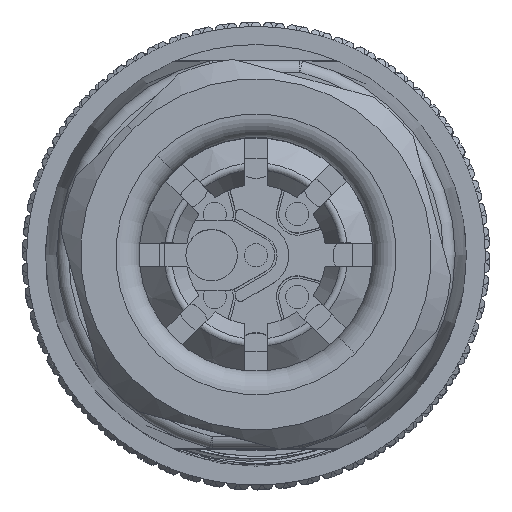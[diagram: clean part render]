
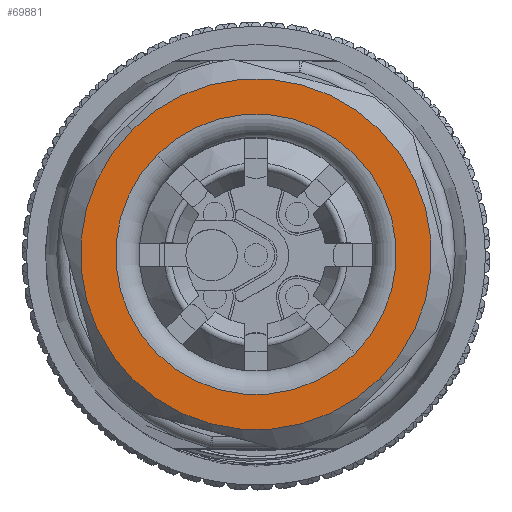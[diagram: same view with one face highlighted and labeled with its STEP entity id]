
A CAD part, top view. The second image highlights one B-rep face of the part: STEP entity #69881.
In plain terms, the highlighted planar face has unit normal (0, 0, 1).
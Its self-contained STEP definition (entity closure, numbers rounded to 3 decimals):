
#31364=CARTESIAN_POINT('',(0.,0.,
39.975));
#31365=DIRECTION('',(0.,0.,-1.));
#31366=DIRECTION('',(0.707,-0.707,0.));
#31367=AXIS2_PLACEMENT_3D('',#31364,#31365,#31366);
#31369=CARTESIAN_POINT('',(0.,0.,
39.975));
#31370=DIRECTION('',(0.,0.,-1.));
#31371=DIRECTION('',(-0.707,0.707,0.));
#31372=AXIS2_PLACEMENT_3D('',#31369,#31370,#31371);
#31374=CARTESIAN_POINT('',(0.,0.,
39.975));
#31375=DIRECTION('',(0.,0.,1.));
#31376=DIRECTION('',(-0.707,0.707,0.));
#31377=AXIS2_PLACEMENT_3D('',#31374,#31375,#31376);
#31379=CARTESIAN_POINT('',(0.,0.,
39.975));
#31380=DIRECTION('',(0.,0.,1.));
#31381=DIRECTION('',(0.707,-0.707,0.));
#31382=AXIS2_PLACEMENT_3D('',#31379,#31380,#31381);
#36925=CARTESIAN_POINT('',(4.243,-4.243,
39.975));
#36926=CARTESIAN_POINT('',(-4.243,4.243,
39.975));
#36927=VERTEX_POINT('',#36925);
#36928=VERTEX_POINT('',#36926);
#36929=CARTESIAN_POINT('',(5.308,-5.308,
39.975));
#36931=VERTEX_POINT('',#36929);
#36933=CARTESIAN_POINT('',(-5.308,5.308,
39.975));
#36935=VERTEX_POINT('',#36933);
#69865=CARTESIAN_POINT('',(0.,0.,
39.975));
#69866=DIRECTION('',(0.,0.,-1.));
#69867=DIRECTION('',(0.707,-0.707,0.));
#69868=AXIS2_PLACEMENT_3D('',#69865,#69866,#69867);
#69869=PLANE('',#69868);
#69871=ORIENTED_EDGE('',*,*,#69870,.F.);
#69872=ORIENTED_EDGE('',*,*,#69844,.F.);
#69873=EDGE_LOOP('',(#69871,#69872));
#69874=FACE_OUTER_BOUND('',#69873,.F.);
#69876=ORIENTED_EDGE('',*,*,#69875,.F.);
#69878=ORIENTED_EDGE('',*,*,#69877,.F.);
#69879=EDGE_LOOP('',(#69876,#69878));
#69880=FACE_BOUND('',#69879,.F.);
#69881=ADVANCED_FACE('',(#69874,#69880),#69869,.F.);
#31368=CIRCLE('',#31367,6.);
#31373=CIRCLE('',#31372,6.);
#31378=CIRCLE('',#31377,7.507);
#31383=CIRCLE('',#31382,7.507);
#69844=EDGE_CURVE('',#36931,#36935,#31383,.T.);
#69870=EDGE_CURVE('',#36935,#36931,#31378,.T.);
#69875=EDGE_CURVE('',#36927,#36928,#31368,.T.);
#69877=EDGE_CURVE('',#36928,#36927,#31373,.T.);
